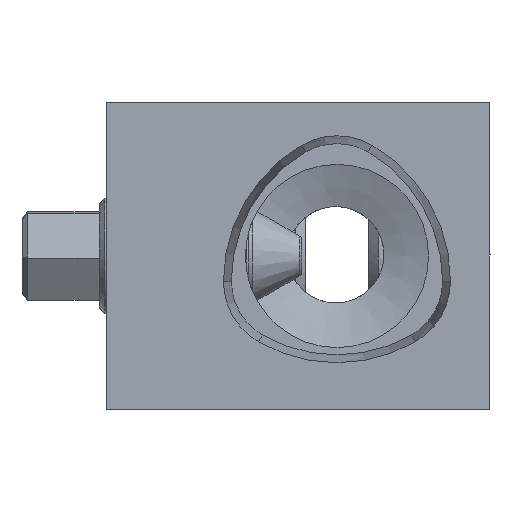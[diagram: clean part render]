
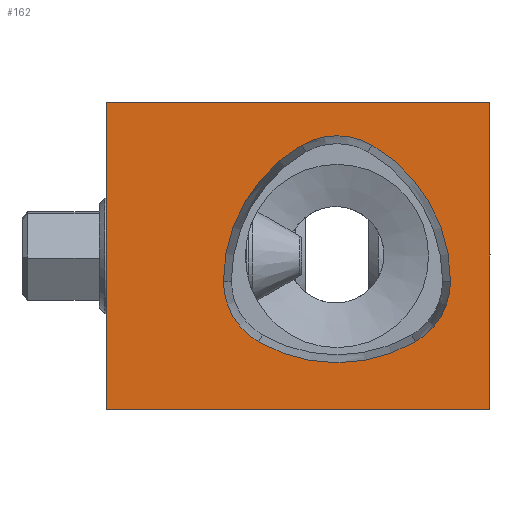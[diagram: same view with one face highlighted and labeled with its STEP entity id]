
A CAD part, left-side view. The second image highlights one B-rep face of the part: STEP entity #162.
In plain terms, the highlighted planar face has unit normal (-1, 0, 0).
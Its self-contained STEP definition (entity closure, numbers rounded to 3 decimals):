
#42=PLANE('',#1317);
#162=ADVANCED_FACE('',(#475,#476),#42,.F.);
#273=LINE('',#2141,#373);
#274=LINE('',#2144,#374);
#275=LINE('',#2146,#375);
#276=LINE('',#2148,#376);
#373=VECTOR('',#1477,1.);
#374=VECTOR('',#1478,1.);
#375=VECTOR('',#1479,1.);
#376=VECTOR('',#1480,1.);
#475=FACE_BOUND('',#532,.T.);
#476=FACE_BOUND('',#533,.T.);
#532=EDGE_LOOP('',(#666,#667,#668,#669,#670,#671));
#533=EDGE_LOOP('',(#672,#673,#674,#675));
#666=ORIENTED_EDGE('',*,*,#1107,.T.);
#667=ORIENTED_EDGE('',*,*,#1108,.T.);
#668=ORIENTED_EDGE('',*,*,#1109,.T.);
#669=ORIENTED_EDGE('',*,*,#1110,.T.);
#670=ORIENTED_EDGE('',*,*,#1111,.T.);
#671=ORIENTED_EDGE('',*,*,#1112,.T.);
#672=ORIENTED_EDGE('',*,*,#1113,.T.);
#673=ORIENTED_EDGE('',*,*,#1114,.F.);
#674=ORIENTED_EDGE('',*,*,#1115,.F.);
#675=ORIENTED_EDGE('',*,*,#1116,.F.);
#988=VERTEX_POINT('',#2130);
#989=VERTEX_POINT('',#2131);
#990=VERTEX_POINT('',#2133);
#991=VERTEX_POINT('',#2135);
#992=VERTEX_POINT('',#2137);
#993=VERTEX_POINT('',#2139);
#994=VERTEX_POINT('',#2142);
#995=VERTEX_POINT('',#2143);
#996=VERTEX_POINT('',#2145);
#997=VERTEX_POINT('',#2147);
#1107=EDGE_CURVE('',#988,#989,#1246,.T.);
#1108=EDGE_CURVE('',#989,#990,#1247,.T.);
#1109=EDGE_CURVE('',#990,#991,#1248,.T.);
#1110=EDGE_CURVE('',#991,#992,#1249,.T.);
#1111=EDGE_CURVE('',#992,#993,#1250,.T.);
#1112=EDGE_CURVE('',#993,#988,#1251,.T.);
#1113=EDGE_CURVE('',#994,#995,#273,.T.);
#1114=EDGE_CURVE('',#996,#995,#274,.T.);
#1115=EDGE_CURVE('',#997,#996,#275,.T.);
#1116=EDGE_CURVE('',#994,#997,#276,.T.);
#1246=CIRCLE('',#1311,3.625);
#1247=CIRCLE('',#1312,8.15);
#1248=CIRCLE('',#1313,3.625);
#1249=CIRCLE('',#1314,8.15);
#1250=CIRCLE('',#1315,3.625);
#1251=CIRCLE('',#1316,8.15);
#1311=AXIS2_PLACEMENT_3D('',#2129,#1465,#1466);
#1312=AXIS2_PLACEMENT_3D('',#2132,#1467,#1468);
#1313=AXIS2_PLACEMENT_3D('',#2134,#1469,#1470);
#1314=AXIS2_PLACEMENT_3D('',#2136,#1471,#1472);
#1315=AXIS2_PLACEMENT_3D('',#2138,#1473,#1474);
#1316=AXIS2_PLACEMENT_3D('',#2140,#1475,#1476);
#1317=AXIS2_PLACEMENT_3D('',#2149,#1481,#1482);
#1465=DIRECTION('',(1.,0.,0.));
#1466=DIRECTION('',(0.,0.,-1.));
#1467=DIRECTION('',(1.,0.,0.));
#1468=DIRECTION('',(0.,0.,-1.));
#1469=DIRECTION('',(1.,0.,0.));
#1470=DIRECTION('',(0.,0.,-1.));
#1471=DIRECTION('',(1.,0.,0.));
#1472=DIRECTION('',(0.,0.,-1.));
#1473=DIRECTION('',(1.,0.,0.));
#1474=DIRECTION('',(0.,0.,-1.));
#1475=DIRECTION('',(1.,0.,0.));
#1476=DIRECTION('',(0.,0.,-1.));
#1477=DIRECTION('',(0.,-1.,0.));
#1478=DIRECTION('',(0.,0.,-1.));
#1479=DIRECTION('',(0.,-1.,0.));
#1480=DIRECTION('',(0.,0.,1.));
#1481=DIRECTION('',(1.,0.,0.));
#1482=DIRECTION('',(0.,1.,0.));
#2129=CARTESIAN_POINT('',(-84.,5.675,6.631));
#2130=CARTESIAN_POINT('',(-84.,2.05,6.631));
#2131=CARTESIAN_POINT('',(-84.,3.862,3.492));
#2132=CARTESIAN_POINT('',(-84.,7.938,10.55));
#2133=CARTESIAN_POINT('',(-84.,12.013,3.492));
#2134=CARTESIAN_POINT('',(-84.,10.2,6.631));
#2135=CARTESIAN_POINT('',(-84.,13.825,6.631));
#2136=CARTESIAN_POINT('',(-84.,5.675,6.631));
#2137=CARTESIAN_POINT('',(-84.,9.75,13.69));
#2138=CARTESIAN_POINT('',(-84.,7.938,10.55));
#2139=CARTESIAN_POINT('',(-84.,6.125,13.69));
#2140=CARTESIAN_POINT('',(-84.,10.2,6.631));
#2141=CARTESIAN_POINT('',(-84.,19.875,0.));
#2142=CARTESIAN_POINT('',(-84.,19.875,0.));
#2143=CARTESIAN_POINT('',(-84.,0.,0.));
#2144=CARTESIAN_POINT('',(-84.,0.,15.875));
#2145=CARTESIAN_POINT('',(-84.,0.,15.875));
#2146=CARTESIAN_POINT('',(-84.,19.875,15.875));
#2147=CARTESIAN_POINT('',(-84.,19.875,15.875));
#2148=CARTESIAN_POINT('',(-84.,19.875,15.875));
#2149=CARTESIAN_POINT('',(-84.,19.875,15.875));
